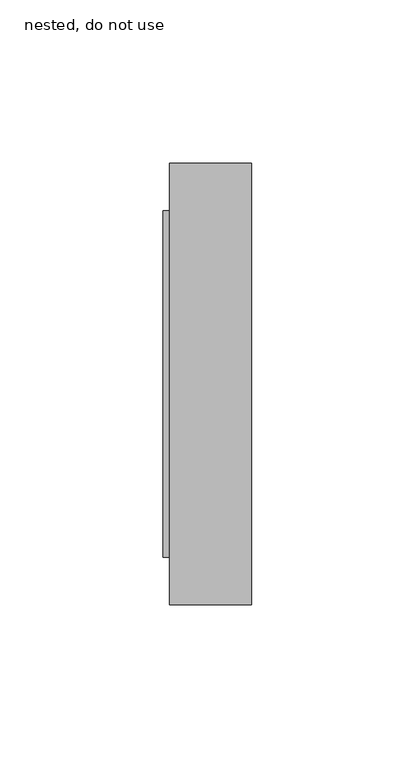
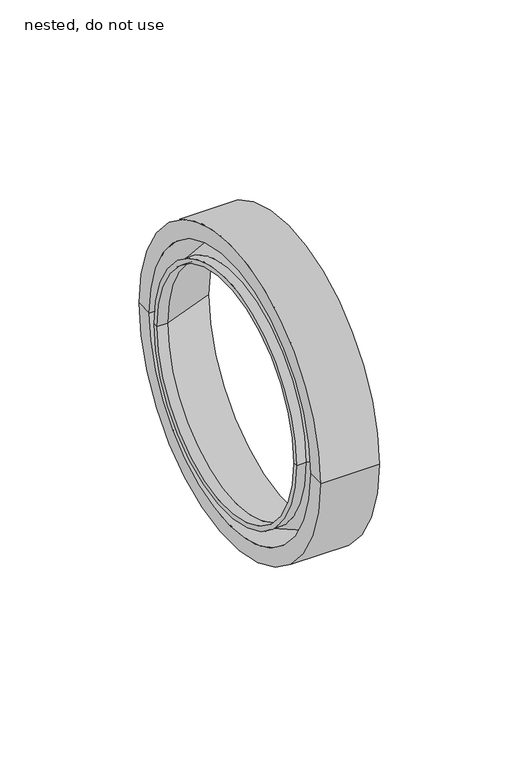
"""IFC4 building model written with IfcOpenShell, lengths in millimetres: pipe fitting geometry, ZZZ_do no use_PIF_HDPE rubber seal -SH_Akatherm : nested, do not use."""

from ifc_helpers import new_model, si_unit, frame, origin, place, context, project, spatial, polyline, circle_curve, source, transform, mapped, element, save
from ifc_brep_helpers import plane_surface, cylinder_surface, revolved_surface, advanced_brep


def nested_do_not_use_821c716b(model_context):
    return source(origin(), model_context, "Body", "AdvancedBrep", [
        advanced_brep(
        [(0.0, -60.0, 0.0), (0.0, 60.0, 0.0), (-21.5, 60.0, 0.0), (-21.5, -60.0, 0.0), (-19.2323419, -53.0, 0.0), (-19.2323419, 53.0, 0.0), (-23.5, -53.0, 0.0), (-23.5, 53.0, 0.0), (-23.5, -51.0, 0.0), (-23.5, 51.0, 0.0), (-18.879688, -51.0, 0.0), (-18.879688, 51.0, 0.0), (3.5, -59.1455403, 0.0), (3.5, 59.1455403, 0.0), (3.5, -67.5, 0.0), (3.5, 67.5, 0.0), (-21.5, -67.5, 0.0), (-21.5, 67.5, 0.0)],
        [
            (0, 1, circle_curve(frame((0.0, 0.0, 0.0), z_axis=(1.0, 0.0, 0.0), x_axis=(0.0, 1.0, 0.0)), 60.0)),
            (1, 2),
            (2, 3, circle_curve(frame((-21.5, 0.0, 0.0), z_axis=(-1.0, 0.0, 0.0), x_axis=(0.0, 1.0, 0.0)), 60.0)),
            (3, 0),
            (1, 0, circle_curve(frame((0.0, 0.0, 0.0), z_axis=(1.0, 0.0, 0.0), x_axis=(0.0, 1.0, 0.0)), 60.0)),
            (3, 2, circle_curve(frame((-21.5, 0.0, 0.0), z_axis=(-1.0, 0.0, 0.0), x_axis=(0.0, 1.0, 0.0)), 60.0)),
            (4, 5, circle_curve(frame((-19.2323419, 0.0, 0.0), z_axis=(1.0, 0.0, 0.0), x_axis=(0.0, 1.0, 0.0)), 53.0)),
            (5, 1),
            (0, 4),
            (5, 4, circle_curve(frame((-19.2323419, 0.0, 0.0), z_axis=(1.0, 0.0, 0.0), x_axis=(0.0, 1.0, 0.0)), 53.0)),
            (6, 7, circle_curve(frame((-23.5, 0.0, 0.0), z_axis=(1.0, 0.0, 0.0), x_axis=(0.0, 1.0, 0.0)), 53.0)),
            (7, 5),
            (4, 6),
            (7, 6, circle_curve(frame((-23.5, 0.0, 0.0), z_axis=(1.0, 0.0, 0.0), x_axis=(0.0, 1.0, 0.0)), 53.0)),
            (8, 9, circle_curve(frame((-23.5, 0.0, 0.0), z_axis=(1.0, 0.0, 0.0), x_axis=(0.0, 1.0, 0.0)), 51.0)),
            (9, 7),
            (6, 8),
            (9, 8, circle_curve(frame((-23.5, 0.0, 0.0), z_axis=(1.0, 0.0, 0.0), x_axis=(0.0, 1.0, 0.0)), 51.0)),
            (10, 11, circle_curve(frame((-18.879688, 0.0, 0.0), z_axis=(1.0, 0.0, 0.0), x_axis=(0.0, 1.0, 0.0)), 51.0)),
            (11, 9),
            (8, 10),
            (11, 10, circle_curve(frame((-18.879688, 0.0, 0.0), z_axis=(1.0, 0.0, 0.0), x_axis=(0.0, 1.0, 0.0)), 51.0)),
            (12, 13, circle_curve(frame((3.5, 0.0, 0.0), z_axis=(1.0, 0.0, 0.0), x_axis=(0.0, 1.0, 0.0)), 59.1455403)),
            (13, 11),
            (10, 12),
            (13, 12, circle_curve(frame((3.5, 0.0, 0.0), z_axis=(1.0, 0.0, 0.0), x_axis=(0.0, 1.0, 0.0)), 59.1455403)),
            (14, 15, circle_curve(frame((3.5, 0.0, 0.0), z_axis=(1.0, 0.0, 0.0), x_axis=(0.0, 1.0, 0.0)), 67.5)),
            (15, 13),
            (12, 14),
            (15, 14, circle_curve(frame((3.5, 0.0, 0.0), z_axis=(1.0, 0.0, 0.0), x_axis=(0.0, 1.0, 0.0)), 67.5)),
            (16, 17, circle_curve(frame((-21.5, 0.0, 0.0), z_axis=(1.0, 0.0, 0.0), x_axis=(0.0, 1.0, 0.0)), 67.5)),
            (17, 15),
            (14, 16),
            (17, 16, circle_curve(frame((-21.5, 0.0, 0.0), z_axis=(1.0, 0.0, 0.0), x_axis=(0.0, 1.0, 0.0)), 67.5)),
            (2, 17),
            (16, 3),
        ],
        [
            revolved_surface(polyline([(-21.5, 60.0, 0.0), (0.0, 60.0, 0.0)]), (-92.9103869, 0.0, 0.0), (-1.0, 0.0, 0.0)),
            revolved_surface(polyline([(0.0, 60.0, 0.0), (-19.2323419, 53.0, 0.0)]), (-92.9103869, 0.0, 0.0), (-1.0, 0.0, 0.0)),
            cylinder_surface(frame((-92.9103869, 0.0, 0.0), z_axis=(-1.0, 0.0, 0.0), x_axis=(0.0, 1.0, 0.0)), 53.0),
            plane_surface(frame((-23.5, 0.0, 0.0), z_axis=(-1.0, 0.0, 0.0), x_axis=(0.0, 1.0, 0.0))),
            revolved_surface(polyline([(-23.5, 51.0, 0.0), (-18.879688, 51.0, 0.0)]), (-92.9103869, 0.0, 0.0), (-1.0, 0.0, 0.0)),
            revolved_surface(polyline([(-18.879688, 51.0, 0.0), (3.5, 59.1455403, 0.0)]), (-92.9103869, 0.0, 0.0), (-1.0, 0.0, 0.0)),
            plane_surface(frame((3.5, 0.0, 0.0), z_axis=(1.0, 0.0, 0.0), x_axis=(0.0, 1.0, 0.0))),
            cylinder_surface(frame((-92.9103869, 0.0, 0.0), z_axis=(-1.0, 0.0, 0.0), x_axis=(0.0, 1.0, 0.0)), 67.5),
            plane_surface(frame((-21.5, 0.0, 0.0), z_axis=(-1.0, 0.0, 0.0), x_axis=(0.0, 1.0, 0.0))),
        ],
        [
            (0, [[1, 2, 3, 4]]),
            (0, [[5, -4, 6, -2]]),
            (1, [[7, 8, -1, 9]]),
            (1, [[10, -9, -5, -8]]),
            (2, [[11, 12, -7, 13]]),
            (2, [[14, -13, -10, -12]]),
            (3, [[15, 16, -11, 17]]),
            (3, [[18, -17, -14, -16]]),
            (4, [[19, 20, -15, 21]]),
            (4, [[22, -21, -18, -20]]),
            (5, [[23, 24, -19, 25]]),
            (5, [[26, -25, -22, -24]]),
            (6, [[27, 28, -23, 29]]),
            (6, [[30, -29, -26, -28]]),
            (7, [[31, 32, -27, 33]]),
            (7, [[34, -33, -30, -32]]),
            (8, [[-3, 35, -31, 36]]),
            (8, [[-6, -36, -34, -35]]),
        ],
    ),
    ])


if __name__ == "__main__":
    model = new_model("IFC4")
    model_context = context("Model", 3, world=origin())
    ifc_project = project(units=[si_unit("LENGTHUNIT", "METRE", prefix="MILLI")], contexts=[model_context])
    site = spatial("IfcSite", under=ifc_project)
    building = spatial("IfcBuilding", under=site)
    placement = place(None, origin())
    nested_do_not_use_shape = nested_do_not_use_821c716b(model_context)
    element("IfcPipeFitting", 1, ObjectType="ZZZ_do no use_PIF_HDPE rubber seal -SH_Akatherm : nested, do not use", at=placement, inside=building, context=model_context, shape_type="MappedRepresentation", body=[
        mapped(nested_do_not_use_shape, transform((0.0, 0.0, 0.0), x_axis=(1.0, 0.0, 0.0), y_axis=(0.0, 1.0, 0.0), z_axis=(0.0, 0.0, 1.0))),
    ])
    save(model, "model.ifc")
